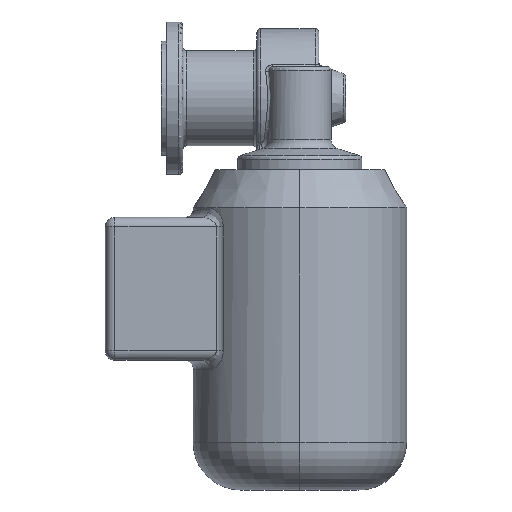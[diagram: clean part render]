
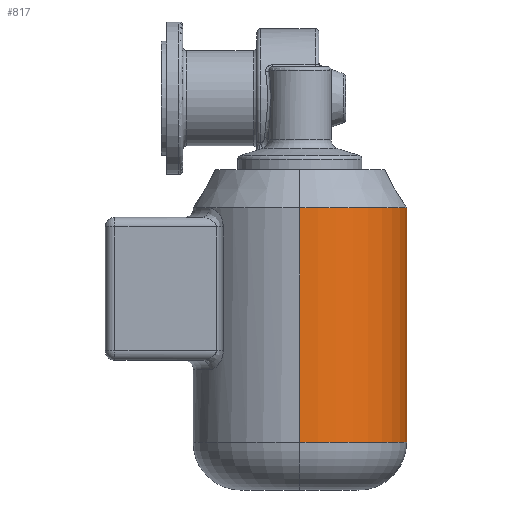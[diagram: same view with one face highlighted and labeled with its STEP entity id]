
A CAD part, front view. The second image highlights one B-rep face of the part: STEP entity #817.
In plain terms, the highlighted cylindrical face has radius 56 mm (diameter 112 mm), a partial arc.
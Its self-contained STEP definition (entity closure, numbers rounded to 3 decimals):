
#808 = ORIENTED_EDGE ( 'NONE', *, *, #818, .T. ) ;
#810 = EDGE_CURVE ( 'NONE', #4697, #4740, #2993, .T. ) ;
#813 = EDGE_CURVE ( 'NONE', #4704, #4697, #2989, .T. ) ;
#817 = ADVANCED_FACE ( 'NONE', ( #3259 ), #3264, .T. ) ;
#818 = EDGE_CURVE ( 'NONE', #4740, #4717, #3216, .T. ) ;
#819 = ORIENTED_EDGE ( 'NONE', *, *, #4702, .F. ) ;
#821 = ORIENTED_EDGE ( 'NONE', *, *, #813, .T. ) ;
#823 = ORIENTED_EDGE ( 'NONE', *, *, #810, .T. ) ;
#841 = EDGE_LOOP ( 'NONE', ( #819, #821, #823, #808 ) ) ;
#2985 = DIRECTION ( 'NONE',  ( 0., 0., 1. ) ) ;
#2986 = VECTOR ( 'NONE', #2985, 1000. ) ;
#2987 = CARTESIAN_POINT ( 'NONE',  ( 0., -54.893, -168. ) ) ;
#2989 = CIRCLE ( 'NONE', #3022, 56. ) ;
#2993 = LINE ( 'NONE', #2987, #2986 ) ;
#3019 = DIRECTION ( 'NONE',  ( 0., -1., 0. ) ) ;
#3020 = DIRECTION ( 'NONE',  ( 0., 0., 1. ) ) ;
#3021 = CARTESIAN_POINT ( 'NONE',  ( 0., 1.107, -143. ) ) ;
#3022 = AXIS2_PLACEMENT_3D ( 'NONE', #3021, #3020, #3019 ) ;
#3203 = DIRECTION ( 'NONE',  ( 0., 0., -1. ) ) ;
#3204 = CARTESIAN_POINT ( 'NONE',  ( 0., 1.107, -20. ) ) ;
#3216 = CIRCLE ( 'NONE', #3258, 56. ) ;
#3247 = DIRECTION ( 'NONE',  ( 0., -1., 0. ) ) ;
#3248 = DIRECTION ( 'NONE',  ( 0., 0., 1. ) ) ;
#3249 = CARTESIAN_POINT ( 'NONE',  ( 0., 1.107, -168. ) ) ;
#3250 = AXIS2_PLACEMENT_3D ( 'NONE', #3249, #3248, #3247 ) ;
#3251 = DIRECTION ( 'NONE',  ( 0., -1., 0. ) ) ;
#3258 = AXIS2_PLACEMENT_3D ( 'NONE', #3204, #3203, #3251 ) ;
#3259 = FACE_OUTER_BOUND ( 'NONE', #841, .T. ) ;
#3264 = CYLINDRICAL_SURFACE ( 'NONE', #3250, 56. ) ;
#4183 = CARTESIAN_POINT ( 'NONE',  ( 0., -54.893, -143. ) ) ;
#4201 = VECTOR ( 'NONE', #4207, 1000. ) ;
#4206 = CARTESIAN_POINT ( 'NONE',  ( 0., 57.107, -143. ) ) ;
#4207 = DIRECTION ( 'NONE',  ( 0., 0., 1. ) ) ;
#4208 = CARTESIAN_POINT ( 'NONE',  ( 0., 57.107, -168. ) ) ;
#4209 = LINE ( 'NONE', #4208, #4201 ) ;
#4333 = CARTESIAN_POINT ( 'NONE',  ( 0., 57.107, -20. ) ) ;
#4355 = CARTESIAN_POINT ( 'NONE',  ( 0., -54.893, -20. ) ) ;
#4697 = VERTEX_POINT ( 'NONE', #4183 ) ;
#4702 = EDGE_CURVE ( 'NONE', #4704, #4717, #4209, .T. ) ;
#4704 = VERTEX_POINT ( 'NONE', #4206 ) ;
#4717 = VERTEX_POINT ( 'NONE', #4333 ) ;
#4740 = VERTEX_POINT ( 'NONE', #4355 ) ;
